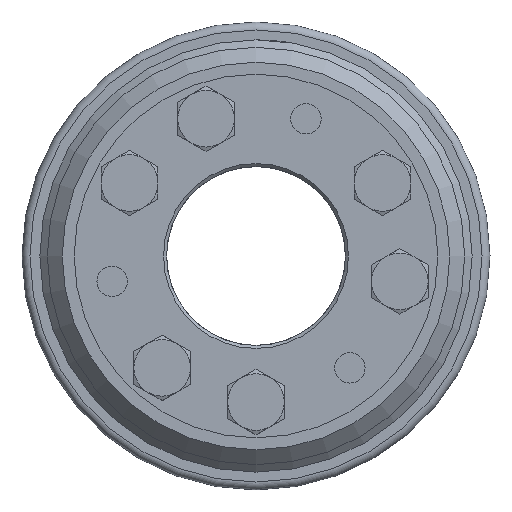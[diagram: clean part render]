
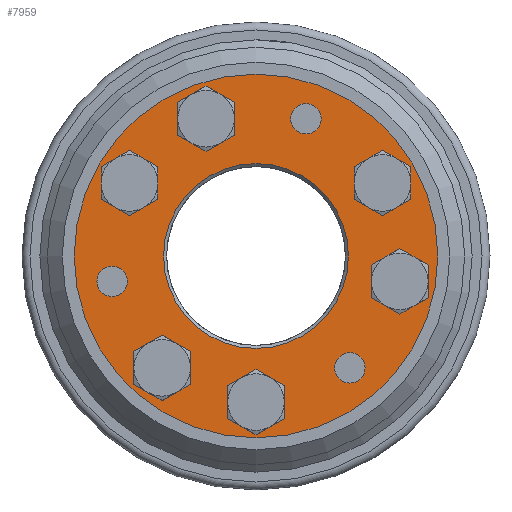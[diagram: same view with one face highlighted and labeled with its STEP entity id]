
A CAD part, left-side view. The second image highlights one B-rep face of the part: STEP entity #7959.
In plain terms, the highlighted planar face has unit normal (-1, 0, 0).
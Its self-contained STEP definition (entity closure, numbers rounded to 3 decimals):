
#834=PLANE('',#8595);
#1743=ORIENTED_EDGE('',*,*,#2727,.F.);
#1744=ORIENTED_EDGE('',*,*,#2728,.F.);
#1745=ORIENTED_EDGE('',*,*,#2729,.F.);
#1746=ORIENTED_EDGE('',*,*,#2730,.F.);
#1747=ORIENTED_EDGE('',*,*,#2731,.F.);
#1748=ORIENTED_EDGE('',*,*,#2732,.F.);
#1749=ORIENTED_EDGE('',*,*,#2725,.T.);
#1750=ORIENTED_EDGE('',*,*,#2723,.T.);
#1751=ORIENTED_EDGE('',*,*,#2721,.T.);
#1752=ORIENTED_EDGE('',*,*,#2719,.T.);
#1753=ORIENTED_EDGE('',*,*,#2718,.F.);
#2718=EDGE_CURVE('',#3318,#3318,#3734,.T.);
#2719=EDGE_CURVE('',#3319,#3319,#3735,.T.);
#2721=EDGE_CURVE('',#3321,#3321,#3737,.T.);
#2723=EDGE_CURVE('',#3323,#3323,#3739,.T.);
#2725=EDGE_CURVE('',#3325,#3325,#3741,.T.);
#2727=EDGE_CURVE('',#3327,#3327,#3743,.T.);
#2728=EDGE_CURVE('',#3328,#3328,#3744,.T.);
#2729=EDGE_CURVE('',#3329,#3329,#3745,.T.);
#2730=EDGE_CURVE('',#3330,#3330,#3746,.T.);
#2731=EDGE_CURVE('',#3331,#3331,#3747,.T.);
#2732=EDGE_CURVE('',#3332,#3332,#3748,.T.);
#3318=VERTEX_POINT('',#11795);
#3319=VERTEX_POINT('',#11798);
#3321=VERTEX_POINT('',#11803);
#3323=VERTEX_POINT('',#11808);
#3325=VERTEX_POINT('',#11813);
#3327=VERTEX_POINT('',#11818);
#3328=VERTEX_POINT('',#11820);
#3329=VERTEX_POINT('',#11822);
#3330=VERTEX_POINT('',#11824);
#3331=VERTEX_POINT('',#11826);
#3332=VERTEX_POINT('',#11828);
#3734=CIRCLE('',#8582,31.);
#3735=CIRCLE('',#8584,5.1);
#3737=CIRCLE('',#8587,5.1);
#3739=CIRCLE('',#8590,5.1);
#3741=CIRCLE('',#8593,61.);
#3743=CIRCLE('',#8596,8.6);
#3744=CIRCLE('',#8597,8.6);
#3745=CIRCLE('',#8598,8.6);
#3746=CIRCLE('',#8599,8.6);
#3747=CIRCLE('',#8600,8.6);
#3748=CIRCLE('',#8601,8.6);
#4270=EDGE_LOOP('',(#1743));
#4271=EDGE_LOOP('',(#1744));
#4272=EDGE_LOOP('',(#1745));
#4273=EDGE_LOOP('',(#1746));
#4274=EDGE_LOOP('',(#1747));
#4275=EDGE_LOOP('',(#1748));
#4276=EDGE_LOOP('',(#1749));
#4277=EDGE_LOOP('',(#1750));
#4278=EDGE_LOOP('',(#1751));
#4279=EDGE_LOOP('',(#1752));
#4280=EDGE_LOOP('',(#1753));
#4874=FACE_BOUND('',#4270,.T.);
#4875=FACE_BOUND('',#4271,.T.);
#4876=FACE_BOUND('',#4272,.T.);
#4877=FACE_BOUND('',#4273,.T.);
#4878=FACE_BOUND('',#4274,.T.);
#4879=FACE_BOUND('',#4275,.T.);
#4880=FACE_BOUND('',#4276,.T.);
#4881=FACE_BOUND('',#4277,.T.);
#4882=FACE_BOUND('',#4278,.T.);
#4883=FACE_BOUND('',#4279,.T.);
#4884=FACE_BOUND('',#4280,.T.);
#7959=ADVANCED_FACE('',(#4874,#4875,#4876,#4877,#4878,#4879,#4880,#4881,
#4882,#4883,#4884),#834,.T.);
#8582=AXIS2_PLACEMENT_3D('',#11794,#9887,#9888);
#8584=AXIS2_PLACEMENT_3D('',#11797,#9891,#9892);
#8587=AXIS2_PLACEMENT_3D('',#11802,#9897,#9898);
#8590=AXIS2_PLACEMENT_3D('',#11807,#9903,#9904);
#8593=AXIS2_PLACEMENT_3D('',#11812,#9909,#9910);
#8595=AXIS2_PLACEMENT_3D('',#11816,#9913,#9914);
#8596=AXIS2_PLACEMENT_3D('',#11817,#9915,#9916);
#8597=AXIS2_PLACEMENT_3D('',#11819,#9917,#9918);
#8598=AXIS2_PLACEMENT_3D('',#11821,#9919,#9920);
#8599=AXIS2_PLACEMENT_3D('',#11823,#9921,#9922);
#8600=AXIS2_PLACEMENT_3D('',#11825,#9923,#9924);
#8601=AXIS2_PLACEMENT_3D('',#11827,#9925,#9926);
#9887=DIRECTION('',(-1.,0.,0.));
#9888=DIRECTION('',(0.,0.,-1.));
#9891=DIRECTION('',(1.,0.,0.));
#9892=DIRECTION('',(0.,0.,-1.));
#9897=DIRECTION('',(1.,0.,0.));
#9898=DIRECTION('',(0.,0.,-1.));
#9903=DIRECTION('',(1.,0.,0.));
#9904=DIRECTION('',(0.,0.,-1.));
#9909=DIRECTION('',(-1.,0.,0.));
#9910=DIRECTION('',(0.,0.,-1.));
#9913=DIRECTION('',(-1.,0.,0.));
#9914=DIRECTION('',(0.,0.,-1.));
#9915=DIRECTION('',(-1.,0.,0.));
#9916=DIRECTION('',(0.,0.,1.));
#9917=DIRECTION('',(-1.,0.,0.));
#9918=DIRECTION('',(0.,0.,1.));
#9919=DIRECTION('',(-1.,0.,0.));
#9920=DIRECTION('',(0.,0.,1.));
#9921=DIRECTION('',(-1.,0.,0.));
#9922=DIRECTION('',(0.,0.,1.));
#9923=DIRECTION('',(-1.,0.,0.));
#9924=DIRECTION('',(0.,0.,1.));
#9925=DIRECTION('',(-1.,0.,0.));
#9926=DIRECTION('',(0.,0.,1.));
#11794=CARTESIAN_POINT('',(-56.913,0.,0.));
#11795=CARTESIAN_POINT('',(-56.913,0.,-31.));
#11797=CARTESIAN_POINT('',(-56.913,-31.497,-37.536));
#11798=CARTESIAN_POINT('',(-56.913,-31.497,-42.636));
#11802=CARTESIAN_POINT('',(-56.913,48.256,-8.509));
#11803=CARTESIAN_POINT('',(-56.913,48.256,-13.609));
#11807=CARTESIAN_POINT('',(-56.913,-16.759,46.045));
#11808=CARTESIAN_POINT('',(-56.913,-16.759,40.945));
#11812=CARTESIAN_POINT('',(-56.913,0.,0.));
#11813=CARTESIAN_POINT('',(-56.913,0.,-61.));
#11816=CARTESIAN_POINT('',(-56.913,0.,-30.));
#11817=CARTESIAN_POINT('',(-56.913,42.435,24.5));
#11818=CARTESIAN_POINT('',(-56.913,42.435,33.1));
#11819=CARTESIAN_POINT('',(-56.913,16.759,46.045));
#11820=CARTESIAN_POINT('',(-56.913,16.759,54.645));
#11821=CARTESIAN_POINT('',(-56.913,0.,-49.));
#11822=CARTESIAN_POINT('',(-56.913,0.,-40.4));
#11823=CARTESIAN_POINT('',(-56.913,31.497,-37.536));
#11824=CARTESIAN_POINT('',(-56.913,31.497,-28.936));
#11825=CARTESIAN_POINT('',(-56.913,-42.435,24.5));
#11826=CARTESIAN_POINT('',(-56.913,-42.435,33.1));
#11827=CARTESIAN_POINT('',(-56.913,-48.256,-8.509));
#11828=CARTESIAN_POINT('',(-56.913,-48.256,0.091));
